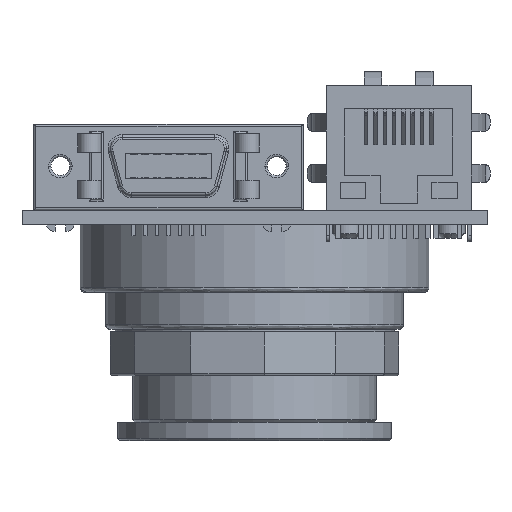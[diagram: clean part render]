
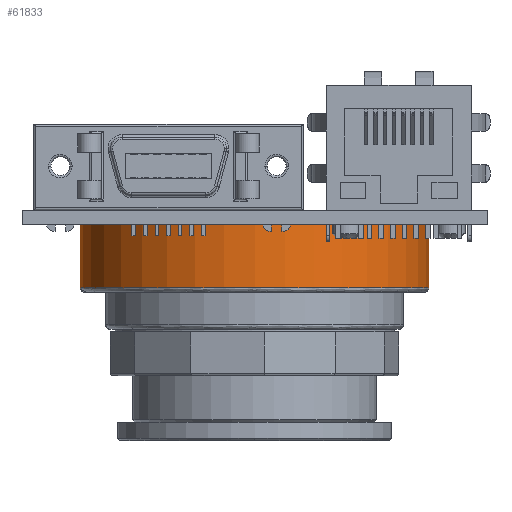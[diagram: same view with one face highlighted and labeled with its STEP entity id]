
A CAD part, front view. The second image highlights one B-rep face of the part: STEP entity #61833.
In plain terms, the highlighted cylindrical face has radius 19.05 mm (diameter 38.1 mm), a partial arc.
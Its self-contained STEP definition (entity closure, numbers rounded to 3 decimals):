
#4384 = EDGE_CURVE ( 'NONE', #51063, #51900, #57837, .T. ) ;
#5647 = DIRECTION ( 'NONE',  ( -1., 0., 0. ) ) ;
#5657 = DIRECTION ( 'NONE',  ( 0., 0., 1. ) ) ;
#5738 = CARTESIAN_POINT ( 'NONE',  ( 0., 0., 0. ) ) ;
#13255 = FACE_OUTER_BOUND ( 'NONE', #36506, .T. ) ;
#13526 = CARTESIAN_POINT ( 'NONE',  ( 0., 0., 6.858 ) ) ;
#15946 = LINE ( 'NONE', #19933, #42515 ) ;
#18604 = DIRECTION ( 'NONE',  ( -1., 0., 0. ) ) ;
#19933 = CARTESIAN_POINT ( 'NONE',  ( -19.05, 0., 11.43 ) ) ;
#24112 = ORIENTED_EDGE ( 'NONE', *, *, #53280, .T. ) ;
#24469 = CARTESIAN_POINT ( 'NONE',  ( 19.05, 0., 0. ) ) ;
#24770 = DIRECTION ( 'NONE',  ( 0., 0., -1. ) ) ;
#28579 = EDGE_CURVE ( 'NONE', #35265, #56083, #50499, .T. ) ;
#29566 = ORIENTED_EDGE ( 'NONE', *, *, #28579, .T. ) ;
#31144 = DIRECTION ( 'NONE',  ( -1., 0., 0. ) ) ;
#34394 = CARTESIAN_POINT ( 'NONE',  ( 19.05, 0., 11.43 ) ) ;
#35265 = VERTEX_POINT ( 'NONE', #51000 ) ;
#35752 = ORIENTED_EDGE ( 'NONE', *, *, #51221, .F. ) ;
#35882 = DIRECTION ( 'NONE',  ( 0., 0., -1. ) ) ;
#36506 = EDGE_LOOP ( 'NONE', ( #35752, #29566, #24112, #51089 ) ) ;
#38414 = VECTOR ( 'NONE', #39343, 1000. ) ;
#39343 = DIRECTION ( 'NONE',  ( 0., 0., -1. ) ) ;
#39970 = LINE ( 'NONE', #34394, #38414 ) ;
#42515 = VECTOR ( 'NONE', #24770, 1000. ) ;
#48384 = DIRECTION ( 'NONE',  ( 0., 0., -1. ) ) ;
#49125 = CARTESIAN_POINT ( 'NONE',  ( -19.05, 0., 6.858 ) ) ;
#50499 = CIRCLE ( 'NONE', #54842, 19.05 ) ;
#50560 = CARTESIAN_POINT ( 'NONE',  ( 0., 0., 11.43 ) ) ;
#51000 = CARTESIAN_POINT ( 'NONE',  ( 19.05, 0., 6.858 ) ) ;
#51063 = VERTEX_POINT ( 'NONE', #52743 ) ;
#51089 = ORIENTED_EDGE ( 'NONE', *, *, #4384, .T. ) ;
#51221 = EDGE_CURVE ( 'NONE', #35265, #51900, #39970, .T. ) ;
#51900 = VERTEX_POINT ( 'NONE', #24469 ) ;
#52743 = CARTESIAN_POINT ( 'NONE',  ( -19.05, 0., 0. ) ) ;
#53280 = EDGE_CURVE ( 'NONE', #56083, #51063, #15946, .T. ) ;
#54144 = AXIS2_PLACEMENT_3D ( 'NONE', #50560, #35882, #31144 ) ;
#54842 = AXIS2_PLACEMENT_3D ( 'NONE', #13526, #48384, #18604 ) ;
#56083 = VERTEX_POINT ( 'NONE', #49125 ) ;
#57837 = CIRCLE ( 'NONE', #58186, 19.05 ) ;
#58186 = AXIS2_PLACEMENT_3D ( 'NONE', #5738, #5657, #5647 ) ;
#59815 = CYLINDRICAL_SURFACE ( 'NONE', #54144, 19.05 ) ;
#61833 = ADVANCED_FACE ( 'NONE', ( #13255 ), #59815, .T. ) ;
